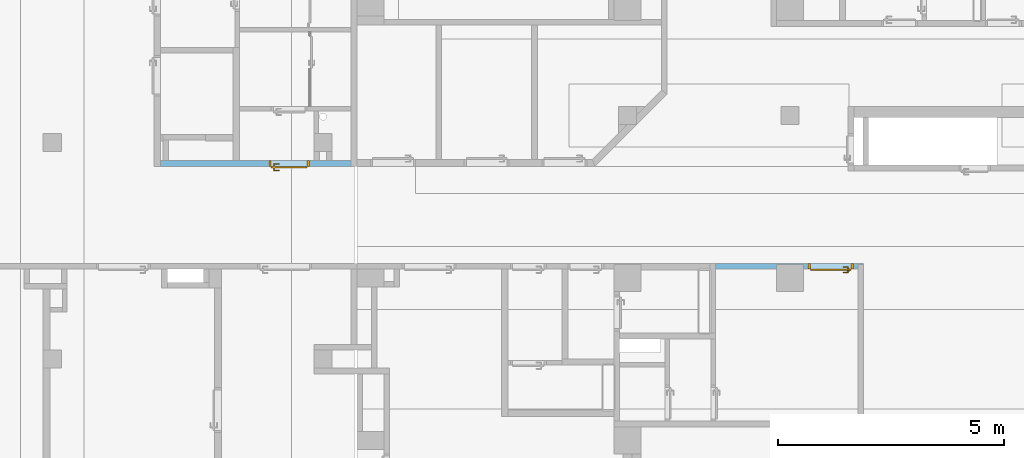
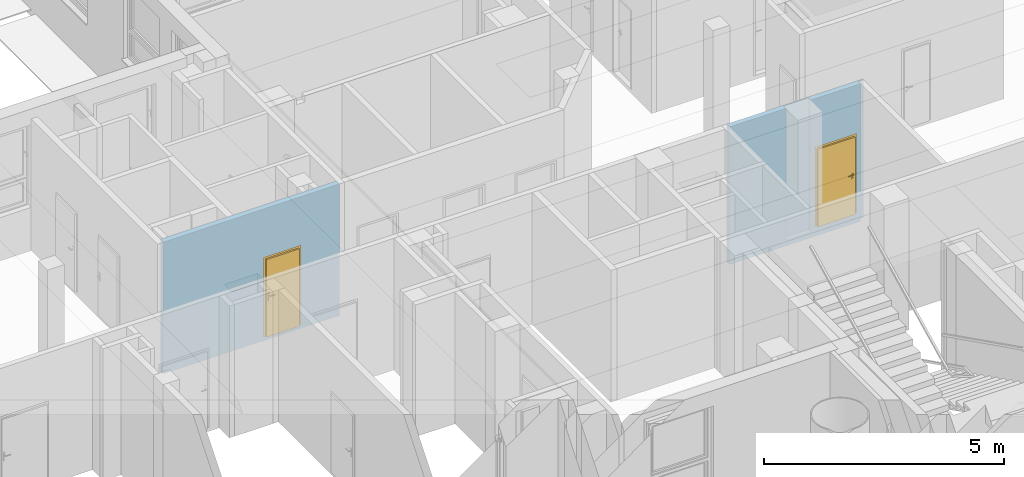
# One storey, part 79 of 140: 2 doors, 2 openings, plus 2 elements that do not belong to this part.
"""IFC4 building model written with IfcOpenShell, lengths in metres."""

from ifc_helpers import new_model, entity, si_unit, converted_unit, derived_unit, frame, frame_2d, origin, origin_with_axes, place, context, subcontext, project, spatial, polyline, rectangle, outline, extrude, clip, bounded_halfspace, closed_shell, open_shell, surface_model, source, transform, mapped, material, layer, layer_set, layer_usage, type_object, element, fill, save


model = new_model("IFC4")

# Units and contexts
model_context = context("Model", 3, precision=1e-05, world=origin())
body_context = subcontext(model_context, "Body", "Model", "MODEL_VIEW")
ifc_project = project(units=[si_unit("LENGTHUNIT", "METRE"), si_unit("AREAUNIT", "SQUARE_METRE"), si_unit("VOLUMEUNIT", "CUBIC_METRE"), si_unit("MASSUNIT", "GRAM", prefix="KILO"), converted_unit("PLANEANGLEUNIT", "DEGREE", entity("IfcPlaneAngleMeasure", 0.0174532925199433), si_unit("PLANEANGLEUNIT", "RADIAN"), dimensions=[0, 0, 0, 0, 0, 0, 0]), derived_unit("THERMALTRANSMITTANCEUNIT", [(si_unit("POWERUNIT", "WATT"), 1), (si_unit("THERMODYNAMICTEMPERATUREUNIT", "KELVIN"), -1), (si_unit("LENGTHUNIT", "METRE"), -2)]), derived_unit("VOLUMETRICFLOWRATEUNIT", [(si_unit("LENGTHUNIT", "METRE"), 3), (converted_unit("TIMEUNIT", "hour", entity("IfcTimeMeasure", 3600.0), si_unit("TIMEUNIT", "SECOND"), dimensions=[0, 0, 1, 0, 0, 0, 0]), -1), (si_unit("LENGTHUNIT", "METRE"), -1)])], contexts=[model_context])

# Site, building, storey
site_placement = place(None, origin())
site = spatial("IfcSite", under=ifc_project, at=site_placement, Name="3. ASŘ", CompositionType="ELEMENT")
building_placement = place(site_placement, origin())
building = spatial("IfcBuilding", under=site, at=building_placement, Name="Pavilon C", CompositionType="ELEMENT")
storey_placement = place(building_placement, origin())
storey = spatial("IfcBuildingStorey", under=building, at=storey_placement, Name="Půdorys 1.NP", CompositionType="ELEMENT", Elevation=0.0)

# Wall, opening, door
ifc_material_1 = material(Name="ZDIVO Z CDm")
ifc_layer_1 = layer(ifc_material_1, 0.125)
ifc_layer_set_1 = layer_set([ifc_layer_1])
ifc_layer_usage_1 = layer_usage(ifc_layer_set_1, "AXIS2", "POSITIVE", 0.0)
wall_1_placement = place(storey_placement, frame((20.4, 9.675, -0.1)))
wall_1 = element("IfcWall", 1, at=wall_1_placement, inside=storey, material=ifc_layer_usage_1, Name="ZDIVO Z CDm", context=body_context, shape_type="SweptSolid", body=[
    extrude(rectangle(XDim=4.22499999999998, YDim=0.125, at=frame_2d((2.11249999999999, 0.0625), x_axis=(1.0, 0.0))), origin_with_axes(), (0.0, 0.0, 1.0), 3.35),
])
opening_1_placement = place(wall_1_placement, frame((3.29999999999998, 0.125, 0.1), z_axis=(0.0, -1.0, 0.0), x_axis=(0.0, 0.0, 1.0)))
opening_1 = element("IfcOpeningElement", 2, at=opening_1_placement, cuts=wall_1, Name="Dveřní otvor", ObjectType="Opening", context=body_context, shape_type="SweptSolid", body=[
    extrude(outline(polyline([(0.0, 0.9), (2.02, 0.9), (2.02, 0.0), (0.0, 0.0), (0.0, 0.9)])), origin_with_axes(), (0.0, 0.0, 1.0), 0.125),
])
door_type_1 = type_object("IfcDoorType", Name="D101", OperationType="NOTDEFINED", ParameterTakesPrecedence=False, PredefinedType="DOOR")
shared_shape_1 = source(origin_with_axes(), body_context, "Body", "SurfaceModel", [
    surface_model("IfcShellBasedSurfaceModel", [(0.0, 0.125, 2.02), (0.0, 0.125, -7.65404249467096e-18), (0.05, 0.125, -7.65404249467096e-18), (0.05, 0.125, 2.02), (0.0, 0.0, 7.65404249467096e-18), (0.0, 2.41584530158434e-16, 2.02), (0.05, 2.41584530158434e-16, 2.02), (0.05, 0.0, 7.65404249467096e-18)], [closed_shell([[[0, 1, 2, 3]], [[4, 5, 6, 7]], [[1, 0, 5, 4]], [[2, 1, 4, 7]], [[3, 2, 7, 6]], [[0, 3, 6, 5]]], orient=[[False], [False], [False], [False], [False], [False]])]),
    surface_model("IfcShellBasedSurfaceModel", [(0.85, 0.125, 2.02), (0.85, 0.125, -7.65404249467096e-18), (0.9, 0.125, -7.65404249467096e-18), (0.9, 0.125, 2.02), (0.85, 0.0, 7.65404249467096e-18), (0.85, 2.41584530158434e-16, 2.02), (0.9, 2.41584530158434e-16, 2.02), (0.9, 0.0, 7.65404249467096e-18)], [closed_shell([[[0, 1, 2, 3]], [[4, 5, 6, 7]], [[1, 0, 5, 4]], [[2, 1, 4, 7]], [[3, 2, 7, 6]], [[0, 3, 6, 5]]], orient=[[False], [False], [False], [False], [False], [False]])]),
    surface_model("IfcShellBasedSurfaceModel", [(0.05, 0.125, 2.02), (0.05, 0.125, 1.97), (0.85, 0.125, 1.97), (0.85, 0.125, 2.02), (0.05, 2.41584530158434e-16, 1.97), (0.05, 2.41584530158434e-16, 2.02), (0.85, 2.41584530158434e-16, 2.02), (0.85, 2.41584530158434e-16, 1.97)], [closed_shell([[[0, 1, 2, 3]], [[4, 5, 6, 7]], [[1, 0, 5, 4]], [[2, 1, 4, 7]], [[3, 2, 7, 6]], [[0, 3, 6, 5]]], orient=[[False], [False], [False], [False], [False], [False]])]),
    surface_model("IfcShellBasedSurfaceModel", [(0.05, 0.165, 1.97), (0.05, 0.165, -1.25526296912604e-17), (0.85, 0.165, -1.25526296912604e-17), (0.85, 0.165, 1.97), (0.05, 0.125, -7.65404249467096e-18), (0.05, 0.125, 1.97), (0.85, 0.125, 1.97), (0.85, 0.125, -7.65404249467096e-18)], [closed_shell([[[0, 1, 2, 3]], [[4, 5, 6, 7]], [[1, 0, 5, 4]], [[2, 1, 4, 7]], [[3, 2, 7, 6]], [[0, 3, 6, 5]]], orient=[[False], [False], [False], [False], [False], [False]])]),
    surface_model("IfcShellBasedSurfaceModel", [(0.76, 0.125, 1.125), (0.76, 0.125, 0.91), (0.81, 0.125, 0.91), (0.81, 0.125, 1.125), (0.76, 0.115, 0.91), (0.76, 0.115, 1.125), (0.81, 0.115, 1.125), (0.81, 0.115, 0.91)], [closed_shell([[[0, 1, 2, 3]], [[4, 5, 6, 7]], [[1, 0, 5, 4]], [[2, 1, 4, 7]], [[3, 2, 7, 6]], [[0, 3, 6, 5]]], orient=[[False], [False], [False], [False], [False], [False]])]),
    surface_model("IfcShellBasedSurfaceModel", [(0.785, 0.115, 1.06), (0.78, 0.115, 1.05866025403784), (0.776339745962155, 0.115, 1.055), (0.775, 0.115, 1.05), (0.776339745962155, 0.115, 1.045), (0.78, 0.115, 1.04133974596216), (0.785, 0.115, 1.04), (0.79, 0.115, 1.04133974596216), (0.793660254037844, 0.115, 1.045), (0.795, 0.115, 1.05), (0.793660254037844, 0.115, 1.055), (0.79, 0.115, 1.05866025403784), (0.79, 0.0700000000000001, 1.05866025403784), (0.785, 0.0750000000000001, 1.06), (0.793660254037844, 0.0663397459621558, 1.055), (0.795, 0.0650000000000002, 1.05), (0.793660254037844, 0.0663397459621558, 1.045), (0.79, 0.0700000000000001, 1.04133974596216), (0.785, 0.0750000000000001, 1.04), (0.78, 0.0800000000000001, 1.04133974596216), (0.776339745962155, 0.0836602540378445, 1.045), (0.775, 0.0850000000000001, 1.05), (0.776339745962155, 0.0836602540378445, 1.055), (0.78, 0.0800000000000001, 1.05866025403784), (0.67, 0.0700000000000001, 1.05866025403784), (0.67, 0.0750000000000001, 1.06), (0.67, 0.0663397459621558, 1.055), (0.67, 0.0650000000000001, 1.05), (0.67, 0.0663397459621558, 1.045), (0.67, 0.0700000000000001, 1.04133974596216), (0.67, 0.0750000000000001, 1.04), (0.67, 0.0800000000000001, 1.04133974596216), (0.67, 0.0836602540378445, 1.045), (0.67, 0.0850000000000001, 1.05), (0.67, 0.0836602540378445, 1.055), (0.67, 0.0800000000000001, 1.05866025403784)], [open_shell([[[0, 1, 2, 3, 4, 5, 6, 7, 8, 9, 10, 11]], [[0, 11, 12, 13]], [[11, 10, 14, 12]], [[10, 9, 15, 14]], [[9, 8, 16, 15]], [[8, 7, 17, 16]], [[7, 6, 18, 17]], [[6, 5, 19, 18]], [[5, 4, 20, 19]], [[4, 3, 21, 20]], [[3, 2, 22, 21]], [[2, 1, 23, 22]], [[1, 0, 13, 23]], [[13, 12, 24, 25]], [[12, 14, 26, 24]], [[14, 15, 27, 26]], [[15, 16, 28, 27]], [[16, 17, 29, 28]], [[17, 18, 30, 29]], [[18, 19, 31, 30]], [[19, 20, 32, 31]], [[20, 21, 33, 32]], [[21, 22, 34, 33]], [[22, 23, 35, 34]], [[23, 13, 25, 35]]], orient=[[False], [False], [False], [False], [False], [False], [False], [False], [False], [False], [False], [False], [False], [False], [False], [False], [False], [False], [False], [False], [False], [False], [False], [False], [False]])]),
    surface_model("IfcShellBasedSurfaceModel", [(0.76, 0.165, 1.125), (0.81, 0.165, 1.125), (0.81, 0.165, 0.91), (0.76, 0.165, 0.91), (0.76, 0.175, 0.91), (0.81, 0.175, 0.91), (0.81, 0.175, 1.125), (0.76, 0.175, 1.125)], [closed_shell([[[0, 1, 2, 3]], [[4, 5, 6, 7]], [[3, 4, 7, 0]], [[2, 5, 4, 3]], [[1, 6, 5, 2]], [[0, 7, 6, 1]]], orient=[[False], [False], [False], [False], [False], [False]])]),
    surface_model("IfcShellBasedSurfaceModel", [(0.785, 0.175, 1.06), (0.79, 0.175, 1.05866025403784), (0.793660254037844, 0.175, 1.055), (0.795, 0.175, 1.05), (0.793660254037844, 0.175, 1.045), (0.79, 0.175, 1.04133974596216), (0.785, 0.175, 1.04), (0.78, 0.175, 1.04133974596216), (0.776339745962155, 0.175, 1.045), (0.775, 0.175, 1.05), (0.776339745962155, 0.175, 1.055), (0.78, 0.175, 1.05866025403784), (0.785, 0.215, 1.06), (0.79, 0.22, 1.05866025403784), (0.793660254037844, 0.223660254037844, 1.055), (0.795, 0.225, 1.05), (0.793660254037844, 0.223660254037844, 1.045), (0.79, 0.22, 1.04133974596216), (0.785, 0.215, 1.04), (0.78, 0.21, 1.04133974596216), (0.776339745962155, 0.206339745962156, 1.045), (0.775, 0.205, 1.05), (0.776339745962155, 0.206339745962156, 1.055), (0.78, 0.21, 1.05866025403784), (0.67, 0.215, 1.06), (0.67, 0.22, 1.05866025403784), (0.67, 0.223660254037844, 1.055), (0.67, 0.225, 1.05), (0.67, 0.223660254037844, 1.045), (0.67, 0.22, 1.04133974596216), (0.67, 0.215, 1.04), (0.67, 0.21, 1.04133974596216), (0.67, 0.206339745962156, 1.045), (0.67, 0.205, 1.05), (0.67, 0.206339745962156, 1.055), (0.67, 0.21, 1.05866025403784)], [open_shell([[[0, 1, 2, 3, 4, 5, 6, 7, 8, 9, 10, 11]], [[0, 12, 13, 1]], [[1, 13, 14, 2]], [[2, 14, 15, 3]], [[3, 15, 16, 4]], [[4, 16, 17, 5]], [[5, 17, 18, 6]], [[6, 18, 19, 7]], [[7, 19, 20, 8]], [[8, 20, 21, 9]], [[9, 21, 22, 10]], [[10, 22, 23, 11]], [[11, 23, 12, 0]], [[12, 24, 25, 13]], [[13, 25, 26, 14]], [[14, 26, 27, 15]], [[15, 27, 28, 16]], [[16, 28, 29, 17]], [[17, 29, 30, 18]], [[18, 30, 31, 19]], [[19, 31, 32, 20]], [[20, 32, 33, 21]], [[21, 33, 34, 22]], [[22, 34, 35, 23]], [[23, 35, 24, 12]]], orient=[[False], [False], [False], [False], [False], [False], [False], [False], [False], [False], [False], [False], [False], [False], [False], [False], [False], [False], [False], [False], [False], [False], [False], [False], [False]])]),
])
door_1_placement = place(opening_1_placement, frame((0.0, 0.0, 0.0), z_axis=(1.0, 0.0, 0.0), x_axis=(0.0, 1.0, -1.22464679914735e-16)))
door_1 = element("IfcDoor", 3, at=door_1_placement, inside=storey, type_object=door_type_1, Name="D101", OverallHeight=2.02, OverallWidth=0.9, context=body_context, shape_type="MappedRepresentation", body=[
    mapped(shared_shape_1, transform((0.0, 0.0, 0.0), x_axis=(1.0, 0.0, 0.0), y_axis=(0.0, 1.0, 0.0), z_axis=(0.0, 0.0, 1.0), scale=1.0)),
])
fill(opening_1, door_1)

ifc_material_2 = material(Name="YTONG 125")
ifc_layer_2 = layer(ifc_material_2, 0.125)
ifc_layer_set_2 = layer_set([ifc_layer_2])
ifc_layer_usage_2 = layer_usage(ifc_layer_set_2, "AXIS2", "POSITIVE", 0.0)
wall_2_placement = place(storey_placement, frame((32.7, 7.4, -0.25)))
wall_2 = element("IfcWall", 4, at=wall_2_placement, inside=storey, material=ifc_layer_usage_2, Name="YTONG 125", context=body_context, shape_type="Clipping", body=[
    clip(extrude(outline(polyline([(0.0, 0.0), (3.15, 0.0), (3.15, 0.1), (3.275, 0.1), (3.275, 0.125), (0.0, 0.125), (0.0, 0.0)])), origin_with_axes(), (0.0, 0.0, 1.0), 3.5), bounded_halfspace(frame((1.65000000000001, 0.05, 0.15), z_axis=(0.0, 0.0, -1.0), x_axis=(0.0, 1.0, 0.0)), True, origin_with_axes(), polyline([(1.95000000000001, 0.0), (1.95000000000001, 0.1), (1.35000000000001, 0.1), (1.35000000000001, 0.0), (1.95000000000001, 0.0)]))),
])
opening_2_placement = place(wall_2_placement, frame((3.05, 0.125, 0.25), z_axis=(0.0, -1.0, 0.0), x_axis=(0.0, 0.0, 1.0)))
opening_2 = element("IfcOpeningElement", 5, at=opening_2_placement, cuts=wall_2, Name="Dveřní otvor", ObjectType="Opening", context=body_context, shape_type="SweptSolid", body=[
    extrude(outline(polyline([(0.0, 1.0), (2.02, 1.0), (2.02, 0.0), (0.0, 0.0), (0.0, 1.0)])), origin_with_axes(), (0.0, 0.0, 1.0), 0.125),
])
door_type_2 = type_object("IfcDoorType", Name="D101", OperationType="NOTDEFINED", ParameterTakesPrecedence=False, PredefinedType="DOOR")
shared_shape_2 = source(origin_with_axes(), body_context, "Body", "SurfaceModel", [
    surface_model("IfcShellBasedSurfaceModel", [(0.0, 0.125, 2.02), (0.0, 0.125, -7.65404249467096e-18), (0.05, 0.125, -7.65404249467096e-18), (0.05, 0.125, 2.02), (0.0, 0.0, 7.65404249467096e-18), (0.0, 2.41584530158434e-16, 2.02), (0.05, 2.41584530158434e-16, 2.02), (0.05, 0.0, 7.65404249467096e-18)], [closed_shell([[[0, 1, 2, 3]], [[4, 5, 6, 7]], [[1, 0, 5, 4]], [[2, 1, 4, 7]], [[3, 2, 7, 6]], [[0, 3, 6, 5]]], orient=[[False], [False], [False], [False], [False], [False]])]),
    surface_model("IfcShellBasedSurfaceModel", [(0.95, 0.125, 2.02), (0.95, 0.125, -7.65404249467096e-18), (1.0, 0.125, -7.65404249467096e-18), (1.0, 0.125, 2.02), (0.95, 0.0, 7.65404249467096e-18), (0.95, 2.41584530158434e-16, 2.02), (1.0, 2.41584530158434e-16, 2.02), (1.0, 0.0, 7.65404249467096e-18)], [closed_shell([[[0, 1, 2, 3]], [[4, 5, 6, 7]], [[1, 0, 5, 4]], [[2, 1, 4, 7]], [[3, 2, 7, 6]], [[0, 3, 6, 5]]], orient=[[False], [False], [False], [False], [False], [False]])]),
    surface_model("IfcShellBasedSurfaceModel", [(0.05, 0.125, 2.02), (0.05, 0.125, 1.97), (0.95, 0.125, 1.97), (0.95, 0.125, 2.02), (0.05, 2.41584530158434e-16, 1.97), (0.05, 2.41584530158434e-16, 2.02), (0.95, 2.41584530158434e-16, 2.02), (0.95, 2.41584530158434e-16, 1.97)], [closed_shell([[[0, 1, 2, 3]], [[4, 5, 6, 7]], [[1, 0, 5, 4]], [[2, 1, 4, 7]], [[3, 2, 7, 6]], [[0, 3, 6, 5]]], orient=[[False], [False], [False], [False], [False], [False]])]),
    surface_model("IfcShellBasedSurfaceModel", [(0.05, 0.165, 1.97), (0.05, 0.165, -1.25526296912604e-17), (0.95, 0.165, -1.25526296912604e-17), (0.95, 0.165, 1.97), (0.05, 0.125, -7.65404249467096e-18), (0.05, 0.125, 1.97), (0.95, 0.125, 1.97), (0.95, 0.125, -7.65404249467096e-18)], [closed_shell([[[0, 1, 2, 3]], [[4, 5, 6, 7]], [[1, 0, 5, 4]], [[2, 1, 4, 7]], [[3, 2, 7, 6]], [[0, 3, 6, 5]]], orient=[[False], [False], [False], [False], [False], [False]])]),
    surface_model("IfcShellBasedSurfaceModel", [(0.908815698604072, 0.125, 0.93625), (0.9125, 0.125, 0.95), (0.908815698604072, 0.125, 0.96375), (0.89875, 0.125, 0.973815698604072), (0.885, 0.125, 0.9775), (0.87125, 0.125, 0.973815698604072), (0.861184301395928, 0.125, 0.96375), (0.8575, 0.125, 0.95), (0.861184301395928, 0.125, 0.93625), (0.87125, 0.125, 0.926184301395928), (0.885, 0.125, 0.9225), (0.89875, 0.125, 0.926184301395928), (0.9125, 0.1125, 0.95), (0.908815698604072, 0.1125, 0.93625), (0.89875, 0.1125, 0.926184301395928), (0.885, 0.1125, 0.9225), (0.87125, 0.1125, 0.926184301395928), (0.861184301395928, 0.1125, 0.93625), (0.8575, 0.1125, 0.95), (0.861184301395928, 0.1125, 0.96375), (0.87125, 0.1125, 0.973815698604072), (0.885, 0.1125, 0.9775), (0.89875, 0.1125, 0.973815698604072), (0.908815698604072, 0.1125, 0.96375)], [closed_shell([[[0, 1, 2, 3, 4, 5, 6, 7, 8, 9, 10, 11]], [[12, 13, 14, 15, 16, 17, 18, 19, 20, 21, 22, 23]], [[1, 0, 13, 12]], [[2, 1, 12, 23]], [[3, 2, 23, 22]], [[4, 3, 22, 21]], [[5, 4, 21, 20]], [[6, 5, 20, 19]], [[7, 6, 19, 18]], [[8, 7, 18, 17]], [[9, 8, 17, 16]], [[10, 9, 16, 15]], [[11, 10, 15, 14]], [[0, 11, 14, 13]]], orient=[[False], [False], [False], [False], [False], [False], [False], [False], [False], [False], [False], [False], [False], [False]])]),
    surface_model("IfcShellBasedSurfaceModel", [(0.908815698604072, 0.125, 1.03625), (0.9125, 0.125, 1.05), (0.908815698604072, 0.125, 1.06375), (0.89875, 0.125, 1.07381569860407), (0.885, 0.125, 1.0775), (0.87125, 0.125, 1.07381569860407), (0.861184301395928, 0.125, 1.06375), (0.8575, 0.125, 1.05), (0.861184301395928, 0.125, 1.03625), (0.87125, 0.125, 1.02618430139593), (0.885, 0.125, 1.0225), (0.89875, 0.125, 1.02618430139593), (0.9125, 0.1125, 1.05), (0.908815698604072, 0.1125, 1.03625), (0.89875, 0.1125, 1.02618430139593), (0.885, 0.1125, 1.0225), (0.87125, 0.1125, 1.02618430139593), (0.861184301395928, 0.1125, 1.03625), (0.8575, 0.1125, 1.05), (0.861184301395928, 0.1125, 1.06375), (0.87125, 0.1125, 1.07381569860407), (0.885, 0.1125, 1.0775), (0.89875, 0.1125, 1.07381569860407), (0.908815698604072, 0.1125, 1.06375)], [closed_shell([[[0, 1, 2, 3, 4, 5, 6, 7, 8, 9, 10, 11]], [[12, 13, 14, 15, 16, 17, 18, 19, 20, 21, 22, 23]], [[1, 0, 13, 12]], [[2, 1, 12, 23]], [[3, 2, 23, 22]], [[4, 3, 22, 21]], [[5, 4, 21, 20]], [[6, 5, 20, 19]], [[7, 6, 19, 18]], [[8, 7, 18, 17]], [[9, 8, 17, 16]], [[10, 9, 16, 15]], [[11, 10, 15, 14]], [[0, 11, 14, 13]]], orient=[[False], [False], [False], [False], [False], [False], [False], [False], [False], [False], [False], [False], [False], [False]])]),
    surface_model("IfcShellBasedSurfaceModel", [(0.885, 0.125, 1.06), (0.88, 0.125, 1.05866025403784), (0.876339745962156, 0.125, 1.055), (0.875, 0.125, 1.05), (0.876339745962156, 0.125, 1.045), (0.88, 0.125, 1.04133974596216), (0.885, 0.125, 1.04), (0.89, 0.125, 1.04133974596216), (0.893660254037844, 0.125, 1.045), (0.895, 0.125, 1.05), (0.893660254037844, 0.125, 1.055), (0.89, 0.125, 1.05866025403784), (0.89, 0.0800000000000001, 1.05866025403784), (0.885, 0.0850000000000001, 1.06), (0.893660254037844, 0.0763397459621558, 1.055), (0.895, 0.0750000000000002, 1.05), (0.893660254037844, 0.0763397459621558, 1.045), (0.89, 0.0800000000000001, 1.04133974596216), (0.885, 0.0850000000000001, 1.04), (0.88, 0.0900000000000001, 1.04133974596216), (0.876339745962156, 0.0936602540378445, 1.045), (0.875, 0.0950000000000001, 1.05), (0.876339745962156, 0.0936602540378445, 1.055), (0.88, 0.0900000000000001, 1.05866025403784), (0.77, 0.0800000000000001, 1.05866025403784), (0.77, 0.0850000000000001, 1.06), (0.77, 0.0763397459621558, 1.055), (0.77, 0.0750000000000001, 1.05), (0.77, 0.0763397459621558, 1.045), (0.77, 0.0800000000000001, 1.04133974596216), (0.77, 0.0850000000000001, 1.04), (0.77, 0.0900000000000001, 1.04133974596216), (0.77, 0.0936602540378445, 1.045), (0.77, 0.0950000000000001, 1.05), (0.77, 0.0936602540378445, 1.055), (0.77, 0.0900000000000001, 1.05866025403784)], [open_shell([[[0, 1, 2, 3, 4, 5, 6, 7, 8, 9, 10, 11]], [[0, 11, 12, 13]], [[11, 10, 14, 12]], [[10, 9, 15, 14]], [[9, 8, 16, 15]], [[8, 7, 17, 16]], [[7, 6, 18, 17]], [[6, 5, 19, 18]], [[5, 4, 20, 19]], [[4, 3, 21, 20]], [[3, 2, 22, 21]], [[2, 1, 23, 22]], [[1, 0, 13, 23]], [[13, 12, 24, 25]], [[12, 14, 26, 24]], [[14, 15, 27, 26]], [[15, 16, 28, 27]], [[16, 17, 29, 28]], [[17, 18, 30, 29]], [[18, 19, 31, 30]], [[19, 20, 32, 31]], [[20, 21, 33, 32]], [[21, 22, 34, 33]], [[22, 23, 35, 34]], [[23, 13, 25, 35]]], orient=[[False], [False], [False], [False], [False], [False], [False], [False], [False], [False], [False], [False], [False], [False], [False], [False], [False], [False], [False], [False], [False], [False], [False], [False], [False]])]),
    surface_model("IfcShellBasedSurfaceModel", [(0.908815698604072, 0.165, 0.93625), (0.89875, 0.165, 0.926184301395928), (0.885, 0.165, 0.9225), (0.87125, 0.165, 0.926184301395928), (0.861184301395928, 0.165, 0.93625), (0.8575, 0.165, 0.95), (0.861184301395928, 0.165, 0.96375), (0.87125, 0.165, 0.973815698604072), (0.885, 0.165, 0.9775), (0.89875, 0.165, 0.973815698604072), (0.908815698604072, 0.165, 0.96375), (0.9125, 0.165, 0.95), (0.9125, 0.1775, 0.95), (0.908815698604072, 0.1775, 0.96375), (0.89875, 0.1775, 0.973815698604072), (0.885, 0.1775, 0.9775), (0.87125, 0.1775, 0.973815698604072), (0.861184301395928, 0.1775, 0.96375), (0.8575, 0.1775, 0.95), (0.861184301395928, 0.1775, 0.93625), (0.87125, 0.1775, 0.926184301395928), (0.885, 0.1775, 0.9225), (0.89875, 0.1775, 0.926184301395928), (0.908815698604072, 0.1775, 0.93625)], [closed_shell([[[0, 1, 2, 3, 4, 5, 6, 7, 8, 9, 10, 11]], [[12, 13, 14, 15, 16, 17, 18, 19, 20, 21, 22, 23]], [[11, 12, 23, 0]], [[10, 13, 12, 11]], [[9, 14, 13, 10]], [[8, 15, 14, 9]], [[7, 16, 15, 8]], [[6, 17, 16, 7]], [[5, 18, 17, 6]], [[4, 19, 18, 5]], [[3, 20, 19, 4]], [[2, 21, 20, 3]], [[1, 22, 21, 2]], [[0, 23, 22, 1]]], orient=[[False], [False], [False], [False], [False], [False], [False], [False], [False], [False], [False], [False], [False], [False]])]),
    surface_model("IfcShellBasedSurfaceModel", [(0.908815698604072, 0.165, 1.03625), (0.89875, 0.165, 1.02618430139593), (0.885, 0.165, 1.0225), (0.87125, 0.165, 1.02618430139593), (0.861184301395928, 0.165, 1.03625), (0.8575, 0.165, 1.05), (0.861184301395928, 0.165, 1.06375), (0.87125, 0.165, 1.07381569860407), (0.885, 0.165, 1.0775), (0.89875, 0.165, 1.07381569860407), (0.908815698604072, 0.165, 1.06375), (0.9125, 0.165, 1.05), (0.9125, 0.1775, 1.05), (0.908815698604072, 0.1775, 1.06375), (0.89875, 0.1775, 1.07381569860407), (0.885, 0.1775, 1.0775), (0.87125, 0.1775, 1.07381569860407), (0.861184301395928, 0.1775, 1.06375), (0.8575, 0.1775, 1.05), (0.861184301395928, 0.1775, 1.03625), (0.87125, 0.1775, 1.02618430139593), (0.885, 0.1775, 1.0225), (0.89875, 0.1775, 1.02618430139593), (0.908815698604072, 0.1775, 1.03625)], [closed_shell([[[0, 1, 2, 3, 4, 5, 6, 7, 8, 9, 10, 11]], [[12, 13, 14, 15, 16, 17, 18, 19, 20, 21, 22, 23]], [[11, 12, 23, 0]], [[10, 13, 12, 11]], [[9, 14, 13, 10]], [[8, 15, 14, 9]], [[7, 16, 15, 8]], [[6, 17, 16, 7]], [[5, 18, 17, 6]], [[4, 19, 18, 5]], [[3, 20, 19, 4]], [[2, 21, 20, 3]], [[1, 22, 21, 2]], [[0, 23, 22, 1]]], orient=[[False], [False], [False], [False], [False], [False], [False], [False], [False], [False], [False], [False], [False], [False]])]),
    surface_model("IfcShellBasedSurfaceModel", [(0.885, 0.165, 1.06), (0.89, 0.165, 1.05866025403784), (0.893660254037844, 0.165, 1.055), (0.895, 0.165, 1.05), (0.893660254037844, 0.165, 1.045), (0.89, 0.165, 1.04133974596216), (0.885, 0.165, 1.04), (0.88, 0.165, 1.04133974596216), (0.876339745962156, 0.165, 1.045), (0.875, 0.165, 1.05), (0.876339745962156, 0.165, 1.055), (0.88, 0.165, 1.05866025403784), (0.885, 0.205, 1.06), (0.89, 0.21, 1.05866025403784), (0.893660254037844, 0.213660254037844, 1.055), (0.895, 0.215, 1.05), (0.893660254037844, 0.213660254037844, 1.045), (0.89, 0.21, 1.04133974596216), (0.885, 0.205, 1.04), (0.88, 0.2, 1.04133974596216), (0.876339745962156, 0.196339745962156, 1.045), (0.875, 0.195, 1.05), (0.876339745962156, 0.196339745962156, 1.055), (0.88, 0.2, 1.05866025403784), (0.77, 0.205, 1.06), (0.77, 0.21, 1.05866025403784), (0.77, 0.213660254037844, 1.055), (0.77, 0.215, 1.05), (0.77, 0.213660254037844, 1.045), (0.77, 0.21, 1.04133974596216), (0.77, 0.205, 1.04), (0.77, 0.2, 1.04133974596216), (0.77, 0.196339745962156, 1.045), (0.77, 0.195, 1.05), (0.77, 0.196339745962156, 1.055), (0.77, 0.2, 1.05866025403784)], [open_shell([[[0, 1, 2, 3, 4, 5, 6, 7, 8, 9, 10, 11]], [[0, 12, 13, 1]], [[1, 13, 14, 2]], [[2, 14, 15, 3]], [[3, 15, 16, 4]], [[4, 16, 17, 5]], [[5, 17, 18, 6]], [[6, 18, 19, 7]], [[7, 19, 20, 8]], [[8, 20, 21, 9]], [[9, 21, 22, 10]], [[10, 22, 23, 11]], [[11, 23, 12, 0]], [[12, 24, 25, 13]], [[13, 25, 26, 14]], [[14, 26, 27, 15]], [[15, 27, 28, 16]], [[16, 28, 29, 17]], [[17, 29, 30, 18]], [[18, 30, 31, 19]], [[19, 31, 32, 20]], [[20, 32, 33, 21]], [[21, 33, 34, 22]], [[22, 34, 35, 23]], [[23, 35, 24, 12]]], orient=[[False], [False], [False], [False], [False], [False], [False], [False], [False], [False], [False], [False], [False], [False], [False], [False], [False], [False], [False], [False], [False], [False], [False], [False], [False]])]),
])
door_2_placement = place(opening_2_placement, frame((0.0, 1.0, 0.0), z_axis=(1.0, 0.0, 0.0), x_axis=(0.0, -1.0, 1.22464679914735e-16)))
door_2 = element("IfcDoor", 6, at=door_2_placement, inside=storey, type_object=door_type_2, Name="D101", OverallHeight=2.02, OverallWidth=1.0, context=body_context, shape_type="MappedRepresentation", body=[
    mapped(shared_shape_2, transform((0.0, 0.0, 0.0), x_axis=(1.0, 0.0, 0.0), y_axis=(0.0, -1.0, 0.0), z_axis=(0.0, 0.0, 1.0), scale=1.0)),
])
fill(opening_2, door_2)

save(model, "model.ifc")
